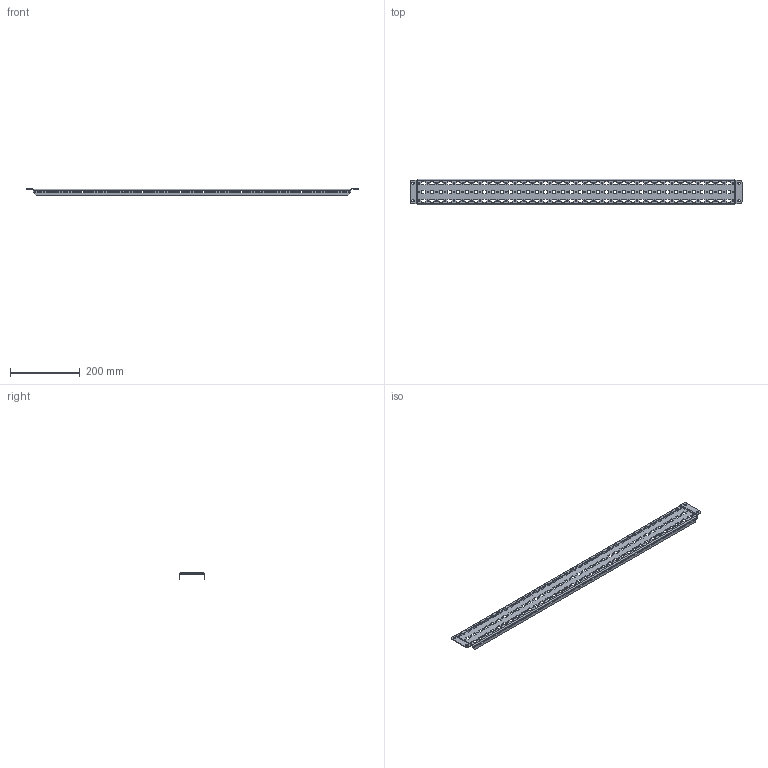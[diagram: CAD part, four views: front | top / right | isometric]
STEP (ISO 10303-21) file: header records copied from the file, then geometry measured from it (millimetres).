
FILE_DESCRIPTION (( 'STEP AP203' ), '1' );
FILE_NAME ('MRD 100.09 Ðåéêà ìîíòàæíàÿ âåðòèêàëüíàÿ.STEP', '2025-05-15T12:32:35', ( '' ), ( '' ), 'SwSTEP 2.0', 'SolidWorks 2019', '' );
FILE_SCHEMA (( 'CONFIG_CONTROL_DESIGN' ));
Length unit declared in the file: millimetre
Products named in the file (1): MRD 100.09 Ðåéêà ìîíòàæíàÿ âåðòèêàëüíàÿ
Bounding box: 952 x 74 x 19.03 mm (x, y, z)
Volume: 156813.2 mm3; surface area: 179820.2 mm2
Topology: 1 solids, 1 shells, 1744 faces, 5178 edges, 3436 vertices
Faces by surface type: plane 1342, cylinder 402
Entity records: 59435 total; most frequent: CARTESIAN_POINT 10359, ORIENTED_EDGE 10356, DIRECTION 9472, EDGE_CURVE 5178, LINE 4374, VECTOR 4374, VERTEX_POINT 3436, AXIS2_PLACEMENT_3D 2549
